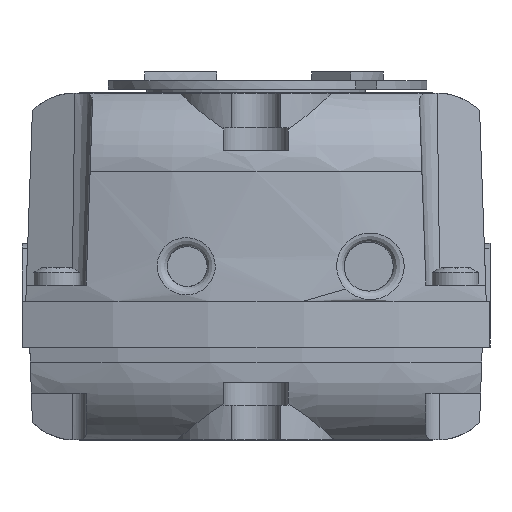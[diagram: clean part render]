
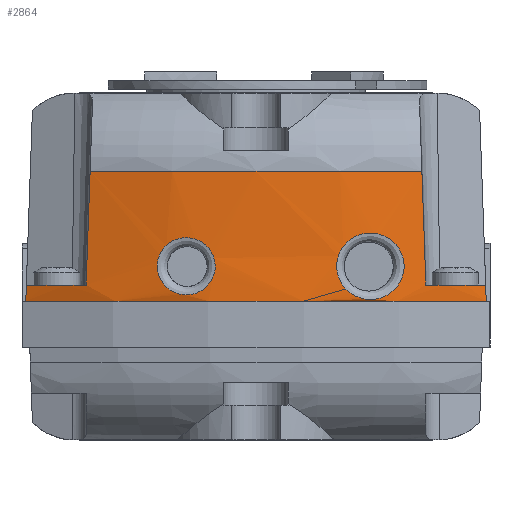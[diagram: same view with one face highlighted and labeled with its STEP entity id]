
A CAD part, left-side view. The second image highlights one B-rep face of the part: STEP entity #2864.
In plain terms, the highlighted conical face has half-angle 2 degrees and reference radius 99 mm.
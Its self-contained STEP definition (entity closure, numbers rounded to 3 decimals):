
#2290=CONICAL_SURFACE('',#8097,99.,2.);
#2588=B_SPLINE_CURVE_WITH_KNOTS('',3,(#10779,#10780,#10781,#10782),
 .UNSPECIFIED.,.F.,.F.,(4,4),(0.,1.),.UNSPECIFIED.);
#2601=B_SPLINE_CURVE_WITH_KNOTS('',3,(#11137,#11138,#11139,#11140),
 .UNSPECIFIED.,.F.,.F.,(4,4),(0.,1.),.UNSPECIFIED.);
#2612=B_SPLINE_CURVE_WITH_KNOTS('',3,(#11422,#11423,#11424,#11425,#11426,
#11427,#11428,#11429,#11430,#11431,#11432,#11433,#11434,#11435,#11436,#11437,
#11438,#11439,#11440,#11441,#11442,#11443,#11444,#11445,#11446),
 .UNSPECIFIED.,.T.,.F.,(1,3,3,3,3,3,3,3,3,3,1),(-0.125,0.,0.125,0.25,0.375,
0.5,0.625,0.75,0.875,1.,1.125),.UNSPECIFIED.);
#2613=B_SPLINE_CURVE_WITH_KNOTS('',3,(#11448,#11449,#11450,#11451,#11452,
#11453,#11454,#11455,#11456,#11457,#11458,#11459,#11460,#11461,#11462,#11463,
#11464,#11465,#11466,#11467,#11468,#11469,#11470,#11471,#11472),
 .UNSPECIFIED.,.T.,.F.,(1,3,3,3,3,3,3,3,3,3,1),(-0.125,0.,0.125,0.25,0.375,
0.5,0.625,0.75,0.875,1.,1.125),.UNSPECIFIED.);
#2614=B_SPLINE_CURVE_WITH_KNOTS('',3,(#11474,#11475,#11476,#11477),
 .UNSPECIFIED.,.F.,.F.,(4,4),(0.,1.),.UNSPECIFIED.);
#2615=B_SPLINE_CURVE_WITH_KNOTS('',3,(#11478,#11479,#11480,#11481),
 .UNSPECIFIED.,.F.,.F.,(4,4),(0.,1.),.UNSPECIFIED.);
#2864=ADVANCED_FACE('',(#4049,#4050,#4051),#2290,.T.);
#4049=FACE_BOUND('',#4250,.T.);
#4050=FACE_BOUND('',#4251,.T.);
#4051=FACE_BOUND('',#4252,.T.);
#4250=EDGE_LOOP('',(#5208));
#4251=EDGE_LOOP('',(#5209));
#4252=EDGE_LOOP('',(#5210,#5211,#5212,#5213,#5214,#5215,#5216,#5217));
#5208=ORIENTED_EDGE('',*,*,#7109,.T.);
#5209=ORIENTED_EDGE('',*,*,#7110,.T.);
#5210=ORIENTED_EDGE('',*,*,#7004,.F.);
#5211=ORIENTED_EDGE('',*,*,#7111,.T.);
#5212=ORIENTED_EDGE('',*,*,#6897,.T.);
#5213=ORIENTED_EDGE('',*,*,#7016,.T.);
#5214=ORIENTED_EDGE('',*,*,#7096,.F.);
#5215=ORIENTED_EDGE('',*,*,#6884,.T.);
#5216=ORIENTED_EDGE('',*,*,#6905,.T.);
#5217=ORIENTED_EDGE('',*,*,#7112,.T.);
#6336=VERTEX_POINT('',#10778);
#6337=VERTEX_POINT('',#10783);
#6345=VERTEX_POINT('',#10852);
#6346=VERTEX_POINT('',#10854);
#6352=VERTEX_POINT('',#10868);
#6419=VERTEX_POINT('',#11097);
#6420=VERTEX_POINT('',#11099);
#6429=VERTEX_POINT('',#11136);
#6479=VERTEX_POINT('',#11447);
#6480=VERTEX_POINT('',#11473);
#6884=EDGE_CURVE('',#6337,#6336,#2588,.T.);
#6897=EDGE_CURVE('',#6346,#6345,#7571,.T.);
#6905=EDGE_CURVE('',#6336,#6352,#7575,.T.);
#7004=EDGE_CURVE('',#6419,#6420,#7618,.T.);
#7016=EDGE_CURVE('',#6345,#6429,#2601,.T.);
#7096=EDGE_CURVE('',#6337,#6429,#7641,.T.);
#7109=EDGE_CURVE('',#6479,#6479,#2612,.T.);
#7110=EDGE_CURVE('',#6480,#6480,#2613,.T.);
#7111=EDGE_CURVE('',#6419,#6346,#2614,.T.);
#7112=EDGE_CURVE('',#6352,#6420,#2615,.T.);
#7571=CIRCLE('',#7938,98.902);
#7575=CIRCLE('',#7943,98.902);
#7618=CIRCLE('',#8024,98.213);
#7641=CIRCLE('',#8078,99.);
#7938=AXIS2_PLACEMENT_3D('',#10853,#8851,#8852);
#7943=AXIS2_PLACEMENT_3D('',#10869,#8865,#8866);
#8024=AXIS2_PLACEMENT_3D('',#11098,#9078,#9079);
#8078=AXIS2_PLACEMENT_3D('',#11351,#9239,#9240);
#8097=AXIS2_PLACEMENT_3D('',#11482,#9280,#9281);
#8851=DIRECTION('',(0.,0.,-1.));
#8852=DIRECTION('',(0.,1.,0.));
#8865=DIRECTION('',(0.,0.,-1.));
#8866=DIRECTION('',(0.,1.,0.));
#9078=DIRECTION('',(0.,0.,1.));
#9079=DIRECTION('',(0.,-1.,0.));
#9239=DIRECTION('',(0.,0.,-1.));
#9240=DIRECTION('',(0.,1.,0.));
#9280=DIRECTION('',(0.,0.,-1.));
#9281=DIRECTION('',(0.,-1.,0.));
#10778=CARTESIAN_POINT('',(-140.862,-39.751,-9.65));
#10779=CARTESIAN_POINT('',(-140.926,-39.849,-12.45));
#10780=CARTESIAN_POINT('',(-140.905,-39.817,-11.517));
#10781=CARTESIAN_POINT('',(-140.883,-39.784,-10.583));
#10782=CARTESIAN_POINT('',(-140.862,-39.751,-9.65));
#10783=CARTESIAN_POINT('',(-140.926,-39.849,-12.45));
#10852=CARTESIAN_POINT('',(-140.862,39.751,-9.65));
#10853=CARTESIAN_POINT('',(-50.3,0.,-9.65));
#10854=CARTESIAN_POINT('',(-144.731,29.4,-9.65));
#10868=CARTESIAN_POINT('',(-144.731,-29.4,-9.65));
#10869=CARTESIAN_POINT('',(-50.3,0.,-9.65));
#11097=CARTESIAN_POINT('',(-144.223,28.711,10.074));
#11098=CARTESIAN_POINT('',(-50.3,0.,10.074));
#11099=CARTESIAN_POINT('',(-144.223,-28.711,10.074));
#11136=CARTESIAN_POINT('',(-140.926,39.849,-12.45));
#11137=CARTESIAN_POINT('',(-140.862,39.751,-9.65));
#11138=CARTESIAN_POINT('',(-140.883,39.784,-10.583));
#11139=CARTESIAN_POINT('',(-140.905,39.817,-11.517));
#11140=CARTESIAN_POINT('',(-140.926,39.849,-12.45));
#11351=CARTESIAN_POINT('',(-50.3,0.,-12.45));
#11422=CARTESIAN_POINT('',(-147.996,-15.555,-10.345));
#11423=CARTESIAN_POINT('',(-148.126,-14.488,-9.232));
#11424=CARTESIAN_POINT('',(-148.151,-13.903,-7.682));
#11425=CARTESIAN_POINT('',(-148.088,-13.967,-6.16));
#11426=CARTESIAN_POINT('',(-148.025,-14.031,-4.639));
#11427=CARTESIAN_POINT('',(-147.873,-14.753,-3.144));
#11428=CARTESIAN_POINT('',(-147.653,-15.879,-2.138));
#11429=CARTESIAN_POINT('',(-147.434,-17.005,-1.132));
#11430=CARTESIAN_POINT('',(-147.142,-18.523,-0.592));
#11431=CARTESIAN_POINT('',(-146.83,-20.037,-0.652));
#11432=CARTESIAN_POINT('',(-146.518,-21.551,-0.713));
#11433=CARTESIAN_POINT('',(-146.196,-23.013,-1.364));
#11434=CARTESIAN_POINT('',(-145.972,-24.061,-2.466));
#11435=CARTESIAN_POINT('',(-145.748,-25.11,-3.568));
#11436=CARTESIAN_POINT('',(-145.641,-25.699,-5.117));
#11437=CARTESIAN_POINT('',(-145.714,-25.634,-6.641));
#11438=CARTESIAN_POINT('',(-145.786,-25.568,-8.165));
#11439=CARTESIAN_POINT('',(-146.038,-24.844,-9.651));
#11440=CARTESIAN_POINT('',(-146.349,-23.732,-10.648));
#11441=CARTESIAN_POINT('',(-146.659,-22.621,-11.645));
#11442=CARTESIAN_POINT('',(-147.024,-21.121,-12.192));
#11443=CARTESIAN_POINT('',(-147.327,-19.612,-12.145));
#11444=CARTESIAN_POINT('',(-147.63,-18.103,-12.097));
#11445=CARTESIAN_POINT('',(-147.867,-16.613,-11.449));
#11446=CARTESIAN_POINT('',(-147.996,-15.555,-10.345));
#11447=CARTESIAN_POINT('',(-147.996,-15.555,-10.345));
#11448=CARTESIAN_POINT('',(-148.001,15.46,-10.064));
#11449=CARTESIAN_POINT('',(-147.815,16.439,-9.189));
#11450=CARTESIAN_POINT('',(-147.662,17.043,-7.929));
#11451=CARTESIAN_POINT('',(-147.605,17.104,-6.625));
#11452=CARTESIAN_POINT('',(-147.548,17.165,-5.321));
#11453=CARTESIAN_POINT('',(-147.591,16.666,-3.987));
#11454=CARTESIAN_POINT('',(-147.702,15.774,-3.037));
#11455=CARTESIAN_POINT('',(-147.813,14.881,-2.086));
#11456=CARTESIAN_POINT('',(-147.983,13.608,-1.51));
#11457=CARTESIAN_POINT('',(-148.145,12.308,-1.453));
#11458=CARTESIAN_POINT('',(-148.306,11.008,-1.395));
#11459=CARTESIAN_POINT('',(-148.458,9.687,-1.857));
#11460=CARTESIAN_POINT('',(-148.575,8.709,-2.729));
#11461=CARTESIAN_POINT('',(-148.693,7.731,-3.602));
#11462=CARTESIAN_POINT('',(-148.778,7.122,-4.875));
#11463=CARTESIAN_POINT('',(-148.828,7.062,-6.176));
#11464=CARTESIAN_POINT('',(-148.878,7.003,-7.477));
#11465=CARTESIAN_POINT('',(-148.892,7.5,-8.809));
#11466=CARTESIAN_POINT('',(-148.849,8.395,-9.761));
#11467=CARTESIAN_POINT('',(-148.806,9.291,-10.713));
#11468=CARTESIAN_POINT('',(-148.702,10.571,-11.291));
#11469=CARTESIAN_POINT('',(-148.546,11.878,-11.344));
#11470=CARTESIAN_POINT('',(-148.39,13.185,-11.396));
#11471=CARTESIAN_POINT('',(-148.186,14.485,-10.935));
#11472=CARTESIAN_POINT('',(-148.001,15.46,-10.064));
#11473=CARTESIAN_POINT('',(-148.001,15.46,-10.064));
#11474=CARTESIAN_POINT('',(-144.223,28.711,10.074));
#11475=CARTESIAN_POINT('',(-144.393,28.941,3.499));
#11476=CARTESIAN_POINT('',(-144.562,29.17,-3.075));
#11477=CARTESIAN_POINT('',(-144.731,29.4,-9.65));
#11478=CARTESIAN_POINT('',(-144.731,-29.4,-9.65));
#11479=CARTESIAN_POINT('',(-144.562,-29.17,-3.075));
#11480=CARTESIAN_POINT('',(-144.393,-28.941,3.499));
#11481=CARTESIAN_POINT('',(-144.223,-28.711,10.074));
#11482=CARTESIAN_POINT('',(-50.3,0.,-12.45));
